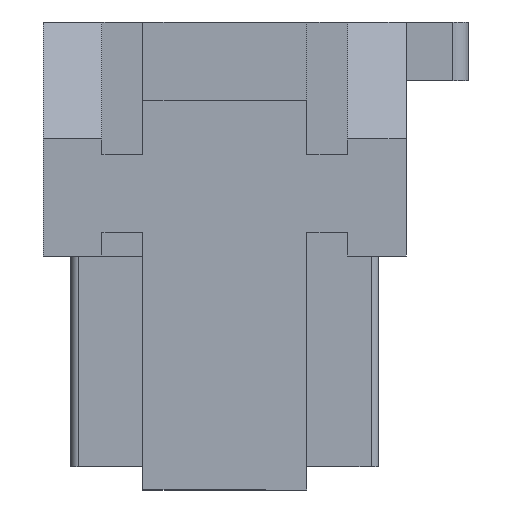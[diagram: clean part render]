
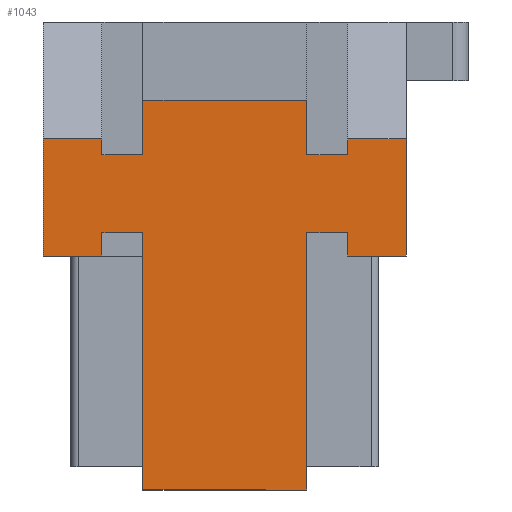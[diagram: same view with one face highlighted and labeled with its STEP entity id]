
A CAD part, left-side view. The second image highlights one B-rep face of the part: STEP entity #1043.
In plain terms, the highlighted planar face has unit normal (-1, 0, 0).
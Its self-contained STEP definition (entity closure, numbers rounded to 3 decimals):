
#70=CARTESIAN_POINT('Vertex',(-8.85,1.05,5.)) ;
#73=CARTESIAN_POINT('Line Origine',(-8.85,0.,5.)) ;
#77=CARTESIAN_POINT('Vertex',(-8.85,-1.05,5.)) ;
#885=CARTESIAN_POINT('Axis2P3D Location',(-8.85,0.,0.)) ;
#890=CARTESIAN_POINT('Line Origine',(-8.85,1.05,4.65)) ;
#894=CARTESIAN_POINT('Vertex',(-8.85,1.05,4.3)) ;
#897=CARTESIAN_POINT('Line Origine',(-8.85,1.313,4.3)) ;
#901=CARTESIAN_POINT('Vertex',(-8.85,1.575,4.3)) ;
#904=CARTESIAN_POINT('Line Origine',(-8.85,1.575,4.4)) ;
#908=CARTESIAN_POINT('Vertex',(-8.85,1.575,4.5)) ;
#911=CARTESIAN_POINT('Line Origine',(-8.85,1.95,4.5)) ;
#915=CARTESIAN_POINT('Vertex',(-8.85,2.325,4.5)) ;
#918=CARTESIAN_POINT('Line Origine',(-8.85,2.325,3.75)) ;
#922=CARTESIAN_POINT('Vertex',(-8.85,2.325,3.)) ;
#925=CARTESIAN_POINT('Line Origine',(-8.85,1.95,3.)) ;
#929=CARTESIAN_POINT('Vertex',(-8.85,1.575,3.)) ;
#932=CARTESIAN_POINT('Line Origine',(-8.85,1.575,3.15)) ;
#936=CARTESIAN_POINT('Vertex',(-8.85,1.575,3.3)) ;
#939=CARTESIAN_POINT('Line Origine',(-8.85,1.313,3.3)) ;
#943=CARTESIAN_POINT('Vertex',(-8.85,1.05,3.3)) ;
#946=CARTESIAN_POINT('Line Origine',(-8.85,1.05,1.65)) ;
#950=CARTESIAN_POINT('Vertex',(-8.85,1.05,0.)) ;
#953=CARTESIAN_POINT('Line Origine',(-8.85,0.,0.)) ;
#957=CARTESIAN_POINT('Vertex',(-8.85,-1.05,0.)) ;
#960=CARTESIAN_POINT('Line Origine',(-8.85,-1.05,1.65)) ;
#964=CARTESIAN_POINT('Vertex',(-8.85,-1.05,3.3)) ;
#967=CARTESIAN_POINT('Line Origine',(-8.85,-1.313,3.3)) ;
#971=CARTESIAN_POINT('Vertex',(-8.85,-1.575,3.3)) ;
#974=CARTESIAN_POINT('Line Origine',(-8.85,-1.575,3.15)) ;
#978=CARTESIAN_POINT('Vertex',(-8.85,-1.575,3.)) ;
#981=CARTESIAN_POINT('Line Origine',(-8.85,-1.95,3.)) ;
#985=CARTESIAN_POINT('Vertex',(-8.85,-2.325,3.)) ;
#988=CARTESIAN_POINT('Line Origine',(-8.85,-2.325,3.75)) ;
#992=CARTESIAN_POINT('Vertex',(-8.85,-2.325,4.5)) ;
#995=CARTESIAN_POINT('Line Origine',(-8.85,-1.95,4.5)) ;
#999=CARTESIAN_POINT('Vertex',(-8.85,-1.575,4.5)) ;
#1002=CARTESIAN_POINT('Line Origine',(-8.85,-1.575,4.4)) ;
#1006=CARTESIAN_POINT('Vertex',(-8.85,-1.575,4.3)) ;
#1009=CARTESIAN_POINT('Line Origine',(-8.85,-1.313,4.3)) ;
#1013=CARTESIAN_POINT('Vertex',(-8.85,-1.05,4.3)) ;
#1016=CARTESIAN_POINT('Line Origine',(-8.85,-1.05,4.65)) ;
#74=DIRECTION('Vector Direction',(0.,-1.,0.)) ;
#886=DIRECTION('Axis2P3D Direction',(1.,0.,0.)) ;
#887=DIRECTION('Axis2P3D XDirection',(0.,1.,0.)) ;
#891=DIRECTION('Vector Direction',(0.,0.,1.)) ;
#898=DIRECTION('Vector Direction',(0.,1.,0.)) ;
#905=DIRECTION('Vector Direction',(0.,0.,-1.)) ;
#912=DIRECTION('Vector Direction',(0.,-1.,0.)) ;
#919=DIRECTION('Vector Direction',(0.,0.,1.)) ;
#926=DIRECTION('Vector Direction',(0.,1.,0.)) ;
#933=DIRECTION('Vector Direction',(0.,0.,1.)) ;
#940=DIRECTION('Vector Direction',(0.,-1.,0.)) ;
#947=DIRECTION('Vector Direction',(0.,0.,-1.)) ;
#954=DIRECTION('Vector Direction',(0.,1.,0.)) ;
#961=DIRECTION('Vector Direction',(0.,0.,-1.)) ;
#968=DIRECTION('Vector Direction',(0.,1.,0.)) ;
#975=DIRECTION('Vector Direction',(0.,0.,1.)) ;
#982=DIRECTION('Vector Direction',(0.,1.,0.)) ;
#989=DIRECTION('Vector Direction',(0.,0.,-1.)) ;
#996=DIRECTION('Vector Direction',(0.,1.,0.)) ;
#1003=DIRECTION('Vector Direction',(0.,0.,-1.)) ;
#1010=DIRECTION('Vector Direction',(0.,-1.,0.)) ;
#1017=DIRECTION('Vector Direction',(0.,0.,1.)) ;
#888=AXIS2_PLACEMENT_3D('Plane Axis2P3D',#885,#886,#887) ;
#1022=ORIENTED_EDGE('',*,*,#79,.T.) ;
#1023=ORIENTED_EDGE('',*,*,#896,.T.) ;
#1024=ORIENTED_EDGE('',*,*,#903,.T.) ;
#1025=ORIENTED_EDGE('',*,*,#910,.T.) ;
#1026=ORIENTED_EDGE('',*,*,#917,.F.) ;
#1027=ORIENTED_EDGE('',*,*,#924,.F.) ;
#1028=ORIENTED_EDGE('',*,*,#931,.T.) ;
#1029=ORIENTED_EDGE('',*,*,#938,.T.) ;
#1030=ORIENTED_EDGE('',*,*,#945,.T.) ;
#1031=ORIENTED_EDGE('',*,*,#952,.T.) ;
#1032=ORIENTED_EDGE('',*,*,#959,.F.) ;
#1033=ORIENTED_EDGE('',*,*,#966,.T.) ;
#1034=ORIENTED_EDGE('',*,*,#973,.T.) ;
#1035=ORIENTED_EDGE('',*,*,#980,.T.) ;
#1036=ORIENTED_EDGE('',*,*,#987,.T.) ;
#1037=ORIENTED_EDGE('',*,*,#994,.F.) ;
#1038=ORIENTED_EDGE('',*,*,#1001,.T.) ;
#1039=ORIENTED_EDGE('',*,*,#1008,.T.) ;
#1040=ORIENTED_EDGE('',*,*,#1015,.T.) ;
#1041=ORIENTED_EDGE('',*,*,#1020,.T.) ;
#75=VECTOR('Line Direction',#74,1.) ;
#892=VECTOR('Line Direction',#891,1.) ;
#899=VECTOR('Line Direction',#898,1.) ;
#906=VECTOR('Line Direction',#905,1.) ;
#913=VECTOR('Line Direction',#912,1.) ;
#920=VECTOR('Line Direction',#919,1.) ;
#927=VECTOR('Line Direction',#926,1.) ;
#934=VECTOR('Line Direction',#933,1.) ;
#941=VECTOR('Line Direction',#940,1.) ;
#948=VECTOR('Line Direction',#947,1.) ;
#955=VECTOR('Line Direction',#954,1.) ;
#962=VECTOR('Line Direction',#961,1.) ;
#969=VECTOR('Line Direction',#968,1.) ;
#976=VECTOR('Line Direction',#975,1.) ;
#983=VECTOR('Line Direction',#982,1.) ;
#990=VECTOR('Line Direction',#989,1.) ;
#997=VECTOR('Line Direction',#996,1.) ;
#1004=VECTOR('Line Direction',#1003,1.) ;
#1011=VECTOR('Line Direction',#1010,1.) ;
#1018=VECTOR('Line Direction',#1017,1.) ;
#1043=ADVANCED_FACE('\X2\96F64EF651E04F554F53\X0\',(#1042),#889,.F.) ;
#79=EDGE_CURVE('',#78,#71,#76,.F.) ;
#896=EDGE_CURVE('',#71,#895,#893,.F.) ;
#903=EDGE_CURVE('',#895,#902,#900,.T.) ;
#910=EDGE_CURVE('',#902,#909,#907,.F.) ;
#917=EDGE_CURVE('',#916,#909,#914,.T.) ;
#924=EDGE_CURVE('',#923,#916,#921,.T.) ;
#931=EDGE_CURVE('',#923,#930,#928,.F.) ;
#938=EDGE_CURVE('',#930,#937,#935,.T.) ;
#945=EDGE_CURVE('',#937,#944,#942,.T.) ;
#952=EDGE_CURVE('',#944,#951,#949,.T.) ;
#959=EDGE_CURVE('',#958,#951,#956,.T.) ;
#966=EDGE_CURVE('',#958,#965,#963,.F.) ;
#973=EDGE_CURVE('',#965,#972,#970,.F.) ;
#980=EDGE_CURVE('',#972,#979,#977,.F.) ;
#987=EDGE_CURVE('',#979,#986,#984,.F.) ;
#994=EDGE_CURVE('',#993,#986,#991,.T.) ;
#1001=EDGE_CURVE('',#993,#1000,#998,.T.) ;
#1008=EDGE_CURVE('',#1000,#1007,#1005,.T.) ;
#1015=EDGE_CURVE('',#1007,#1014,#1012,.F.) ;
#1020=EDGE_CURVE('',#1014,#78,#1019,.T.) ;
#1021=EDGE_LOOP('',(#1022,#1023,#1024,#1025,#1026,#1027,#1028,#1029,#1030,#1031,#1032,#1033,#1034,#1035,#1036,#1037,#1038,#1039,#1040,#1041)) ;
#1042=FACE_OUTER_BOUND('',#1021,.T.) ;
#76=LINE('Line',#73,#75) ;
#893=LINE('Line',#890,#892) ;
#900=LINE('Line',#897,#899) ;
#907=LINE('Line',#904,#906) ;
#914=LINE('Line',#911,#913) ;
#921=LINE('Line',#918,#920) ;
#928=LINE('Line',#925,#927) ;
#935=LINE('Line',#932,#934) ;
#942=LINE('Line',#939,#941) ;
#949=LINE('Line',#946,#948) ;
#956=LINE('Line',#953,#955) ;
#963=LINE('Line',#960,#962) ;
#970=LINE('Line',#967,#969) ;
#977=LINE('Line',#974,#976) ;
#984=LINE('Line',#981,#983) ;
#991=LINE('Line',#988,#990) ;
#998=LINE('Line',#995,#997) ;
#1005=LINE('Line',#1002,#1004) ;
#1012=LINE('Line',#1009,#1011) ;
#1019=LINE('Line',#1016,#1018) ;
#889=PLANE('Plane',#888) ;
#71=VERTEX_POINT('',#70) ;
#78=VERTEX_POINT('',#77) ;
#895=VERTEX_POINT('',#894) ;
#902=VERTEX_POINT('',#901) ;
#909=VERTEX_POINT('',#908) ;
#916=VERTEX_POINT('',#915) ;
#923=VERTEX_POINT('',#922) ;
#930=VERTEX_POINT('',#929) ;
#937=VERTEX_POINT('',#936) ;
#944=VERTEX_POINT('',#943) ;
#951=VERTEX_POINT('',#950) ;
#958=VERTEX_POINT('',#957) ;
#965=VERTEX_POINT('',#964) ;
#972=VERTEX_POINT('',#971) ;
#979=VERTEX_POINT('',#978) ;
#986=VERTEX_POINT('',#985) ;
#993=VERTEX_POINT('',#992) ;
#1000=VERTEX_POINT('',#999) ;
#1007=VERTEX_POINT('',#1006) ;
#1014=VERTEX_POINT('',#1013) ;
